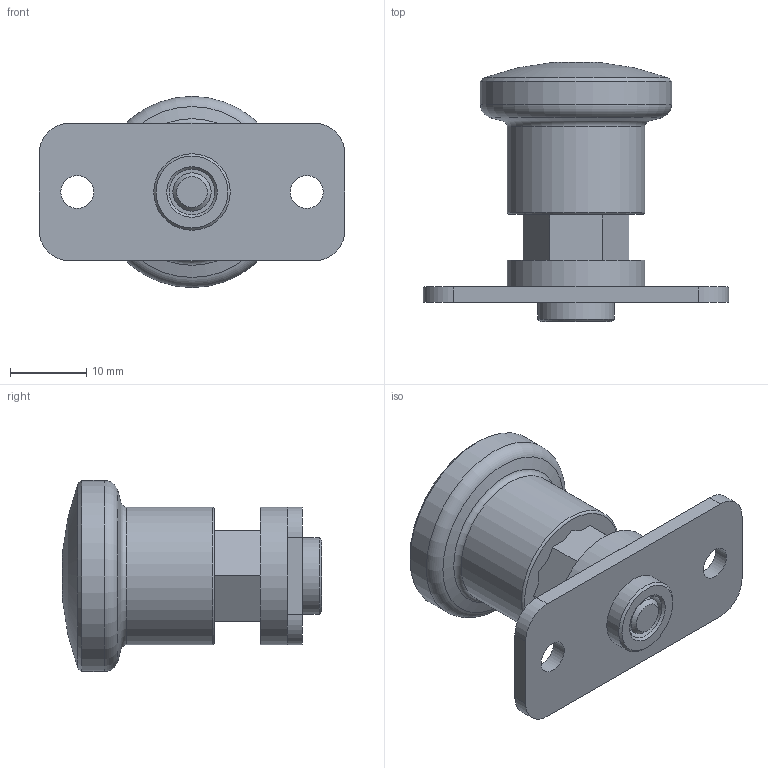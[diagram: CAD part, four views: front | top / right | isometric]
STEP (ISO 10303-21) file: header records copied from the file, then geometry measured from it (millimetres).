
FILE_DESCRIPTION( ( 'STEP AP203' ), '1' );
FILE_NAME( 'C:/Temp/Ganter_Step_05_03_2020/data/3_1/gn822_9/gn822_9_cn/Stainless Steel-Mini indexing plunger GN 822.9-5-6-CN (activated).stp', '2020-03-12T09:25:13', ( 'License CC BY-ND 4.0' ), ( 'CADENAS' ), ' ', 'PARTsolutions', ' ' );
FILE_SCHEMA( ( 'CONFIG_CONTROL_DESIGN' ) );
Length unit declared in the file: millimetre
Products named in the file (3): Stainless Steel-Mini indexing plunger GN 822.9-5-6-CN (activated); _Stainless Steel-Mini indexing plunger GN 822.9-5-6-CN (deactivated)_1; _Stainless Steel-Mini indexing plunger GN 822.9-5-6-CN (deactivated)_2
Assembly tree (2 placements, depth 2):
  Stainless Steel-Mini indexing plunger GN 822.9-5-6-CN (activated)
    _Stainless Steel-Mini indexing plunger GN 822.9-5-6-CN (deactivated)_1
    _Stainless Steel-Mini indexing plunger GN 822.9-5-6-CN (deactivated)_2
Bounding box: 40 x 33.87 x 25 mm (x, y, z)
Volume: 8493.5 mm3; surface area: 6197.7 mm2
Topology: 2 solids, 2 shells, 81 faces, 190 edges, 120 vertices
Faces by surface type: plane 47, cylinder 16, cone 14, torus 3, sphere 1
Full cylindrical faces by diameter (mm): 4 x1, 4.2 x1, 4.3 x2, 5 x1, 6 x2, 10 x1, 12 x1, 18 x2, 25 x1
Entity records: 2348 total; most frequent: CARTESIAN_POINT 482, DIRECTION 362, ORIENTED_EDGE 326, EDGE_CURVE 163, AXIS2_PLACEMENT_3D 133, EDGE_LOOP 118, VERTEX_POINT 117, FACE_OUTER_BOUND 97
